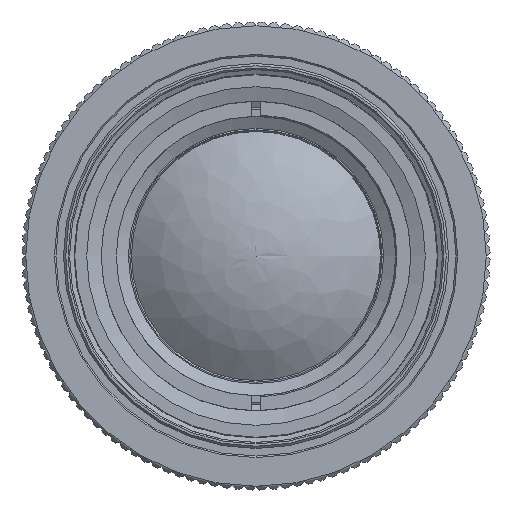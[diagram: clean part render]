
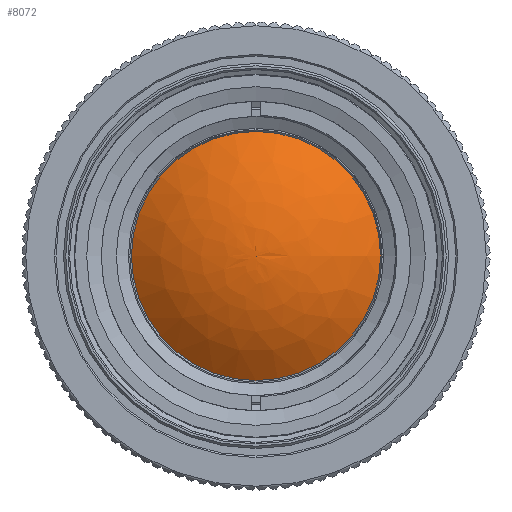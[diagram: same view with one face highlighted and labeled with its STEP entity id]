
A CAD part, left-side view. The second image highlights one B-rep face of the part: STEP entity #8072.
In plain terms, the highlighted face is a revolution surface.
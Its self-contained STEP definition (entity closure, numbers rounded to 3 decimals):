
#5576=SURFACE_OF_REVOLUTION('',#6201,#5578);
#5578=AXIS1_PLACEMENT('',#33485,#25087);
#5580=VERTEX_LOOP('',#17150);
#6201=B_SPLINE_CURVE_WITH_KNOTS('',3,(#33479,#33480,#33481,#33482,#33483,
#33484),.UNSPECIFIED.,.F.,.F.,(4,1,1,4),(0.,0.522,0.784,
1.),.UNSPECIFIED.);
#6448=FACE_BOUND('',#5580,.T.);
#6449=FACE_BOUND('',#9758,.T.);
#8072=ADVANCED_FACE('',(#6448,#6449),#5576,.F.);
#9758=EDGE_LOOP('',(#15518));
#15518=ORIENTED_EDGE('',*,*,#19244,.F.);
#17150=VERTEX_POINT('',#33476);
#17151=VERTEX_POINT('',#33478);
#19244=EDGE_CURVE('',#17151,#17151,#19957,.T.);
#19957=CIRCLE('',#21395,16.5);
#21395=AXIS2_PLACEMENT_3D('',#33477,#25085,#25086);
#25085=DIRECTION('',(1.,0.,0.));
#25086=DIRECTION('',(0.,0.,1.));
#25087=DIRECTION('',(-1.,0.,0.));
#33476=CARTESIAN_POINT('',(4.84,0.,0.));
#33477=CARTESIAN_POINT('',(10.521,0.,0.));
#33478=CARTESIAN_POINT('',(10.521,0.,16.5));
#33479=CARTESIAN_POINT('',(4.84,0.,0.));
#33480=CARTESIAN_POINT('',(4.84,-2.873,0.));
#33481=CARTESIAN_POINT('',(5.509,-7.183,0.));
#33482=CARTESIAN_POINT('',(7.891,-12.683,0.));
#33483=CARTESIAN_POINT('',(9.59,-15.31,0.));
#33484=CARTESIAN_POINT('',(10.521,-16.5,0.));
#33485=CARTESIAN_POINT('',(4.84,0.,0.));
